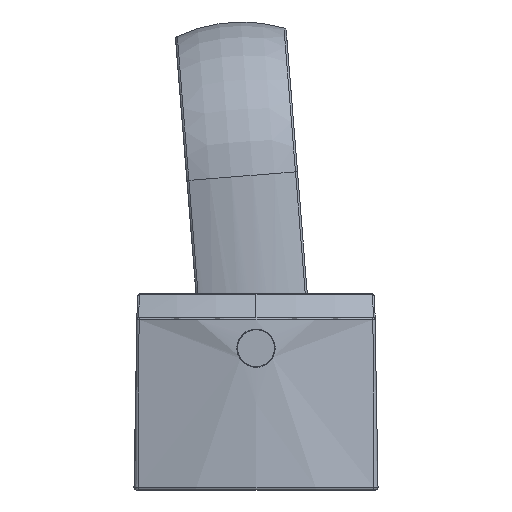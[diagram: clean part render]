
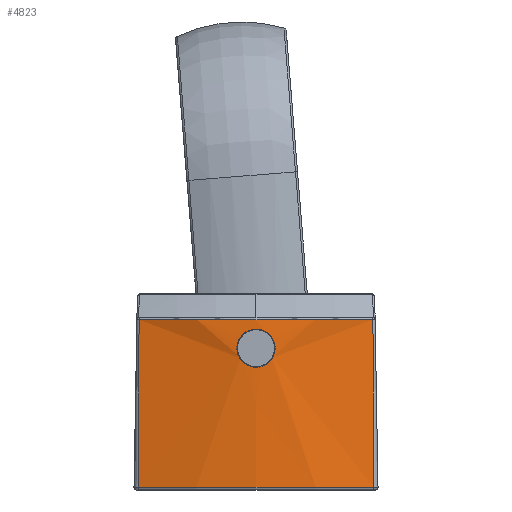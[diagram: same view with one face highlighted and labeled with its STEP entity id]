
A CAD part, left-side view. The second image highlights one B-rep face of the part: STEP entity #4823.
In plain terms, the highlighted conical face has half-angle 1 degrees and reference radius 30.094 mm.
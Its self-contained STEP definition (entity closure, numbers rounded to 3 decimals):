
#438 = EDGE_LOOP ( 'NONE', ( #17957, #23236 ) ) ;
#495 = EDGE_LOOP ( 'NONE', ( #14823, #12800, #28957, #25138 ) ) ;
#510 = LINE ( 'NONE', #14059, #29009 ) ;
#936 = CONICAL_SURFACE ( 'NONE', #19417, 30.094, 0.017 ) ;
#958 = CARTESIAN_POINT ( 'NONE',  ( -128.716, 11.121, 10.564 ) ) ;
#1104 = CARTESIAN_POINT ( 'NONE',  ( -128.689, 10.837, 12.719 ) ) ;
#1106 = CARTESIAN_POINT ( 'NONE',  ( -128.731, 8.965, 10.278 ) ) ;
#1254 = CARTESIAN_POINT ( 'NONE',  ( -128.687, 8.375, 11.401 ) ) ;
#1542 = CARTESIAN_POINT ( 'NONE',  ( -128.748, 10.3, 10.015 ) ) ;
#1549 = CARTESIAN_POINT ( 'NONE',  ( -128.695, 8.424, 11.104 ) ) ;
#2792 = DIRECTION ( 'NONE',  ( -1., 0., 0. ) ) ;
#3240 = CARTESIAN_POINT ( 'NONE',  ( -128.741, 10.575, 10.129 ) ) ;
#3389 = CARTESIAN_POINT ( 'NONE',  ( -128.692, 9.13, 12.832 ) ) ;
#3534 = CARTESIAN_POINT ( 'NONE',  ( -128.683, 11.113, 12.43 ) ) ;
#3541 = EDGE_CURVE ( 'NONE', #9379, #15775, #28967, .T. ) ;
#3685 = CARTESIAN_POINT ( 'NONE',  ( -128.692, 10.667, 12.833 ) ) ;
#3979 = CARTESIAN_POINT ( 'NONE',  ( -128.681, 8.423, 11.895 ) ) ;
#4823 = ADVANCED_FACE ( 'NONE', ( #10457, #8172 ), #936, .T. ) ;
#5079 = DIRECTION ( 'NONE',  ( -0.017, 0.006, -1. ) ) ;
#5814 = CARTESIAN_POINT ( 'NONE',  ( -128.696, 9.504, 12.986 ) ) ;
#5960 = CARTESIAN_POINT ( 'NONE',  ( -128.696, 10.3, 12.985 ) ) ;
#6114 = CARTESIAN_POINT ( 'NONE',  ( -128.738, 9.13, 10.168 ) ) ;
#7488 = EDGE_CURVE ( 'NONE', #15775, #20461, #510, .T. ) ;
#8102 = CARTESIAN_POINT ( 'NONE',  ( -128.698, 9.9, 13.025 ) ) ;
#8172 = FACE_OUTER_BOUND ( 'NONE', #495, .T. ) ;
#8343 = VECTOR ( 'NONE', #11610, 1000. ) ;
#8467 = CARTESIAN_POINT ( 'NONE',  ( -98.831, 9.9, 0. ) ) ;
#8620 = VERTEX_POINT ( 'NONE', #12608 ) ;
#8695 = CARTESIAN_POINT ( 'NONE',  ( -128.689, 8.385, 11.301 ) ) ;
#9117 = EDGE_CURVE ( 'NONE', #8620, #22953, #18798, .T. ) ;
#9170 = DIRECTION ( 'NONE',  ( 0., 0., -1. ) ) ;
#9379 = VERTEX_POINT ( 'NONE', #24377 ) ;
#10233 = CARTESIAN_POINT ( 'NONE',  ( -128.694, 11.386, 11.102 ) ) ;
#10457 = FACE_BOUND ( 'NONE', #438, .T. ) ;
#10832 = CARTESIAN_POINT ( 'NONE',  ( -128.751, 9.9, 9.975 ) ) ;
#11047 = DIRECTION ( 'NONE',  ( 1., 0., 0. ) ) ;
#11115 = CARTESIAN_POINT ( 'NONE',  ( -127.363, 19.458, 0.203 ) ) ;
#11610 = DIRECTION ( 'NONE',  ( -0.017, -0.006, -1. ) ) ;
#11907 = AXIS2_PLACEMENT_3D ( 'NONE', #23206, #9170, #2792 ) ;
#12530 = CARTESIAN_POINT ( 'NONE',  ( -128.727, 10.906, 10.35 ) ) ;
#12608 = CARTESIAN_POINT ( 'NONE',  ( -128.751, 9.9, 9.975 ) ) ;
#12674 = CARTESIAN_POINT ( 'NONE',  ( -128.68, 11.386, 11.897 ) ) ;
#12677 = CARTESIAN_POINT ( 'NONE',  ( -128.698, 8.452, 11.011 ) ) ;
#12800 = ORIENTED_EDGE ( 'NONE', *, *, #22959, .T. ) ;
#13124 = CARTESIAN_POINT ( 'NONE',  ( -128.708, 8.568, 10.73 ) ) ;
#13387 = DIRECTION ( 'NONE',  ( 0., 0., 1. ) ) ;
#14059 = CARTESIAN_POINT ( 'NONE',  ( -127.367, 19.459, 0. ) ) ;
#14355 = LINE ( 'NONE', #23667, #8343 ) ;
#14546 = CARTESIAN_POINT ( 'NONE',  ( -127.138, 19.382, 13.817 ) ) ;
#14811 = CARTESIAN_POINT ( 'NONE',  ( -128.731, 10.83, 10.288 ) ) ;
#14823 = ORIENTED_EDGE ( 'NONE', *, *, #7488, .T. ) ;
#15008 = VERTEX_POINT ( 'NONE', #24962 ) ;
#15108 = CARTESIAN_POINT ( 'NONE',  ( -128.689, 8.965, 12.721 ) ) ;
#15174 = DIRECTION ( 'NONE',  ( 0., 0., -1. ) ) ;
#15550 = CARTESIAN_POINT ( 'NONE',  ( -128.681, 8.452, 11.99 ) ) ;
#15694 = CARTESIAN_POINT ( 'NONE',  ( -128.681, 8.568, 12.27 ) ) ;
#15775 = VERTEX_POINT ( 'NONE', #14546 ) ;
#17393 = CARTESIAN_POINT ( 'NONE',  ( -128.698, 9.9, 13.025 ) ) ;
#17538 = CARTESIAN_POINT ( 'NONE',  ( -128.682, 8.385, 11.7 ) ) ;
#17836 = CARTESIAN_POINT ( 'NONE',  ( -128.751, 9.9, 9.975 ) ) ;
#17957 = ORIENTED_EDGE ( 'NONE', *, *, #9117, .T. ) ;
#17986 = CARTESIAN_POINT ( 'NONE',  ( -128.751, 9.698, 9.975 ) ) ;
#18709 = CARTESIAN_POINT ( 'NONE',  ( -128.698, 9.9, 13.025 ) ) ;
#18798 = B_SPLINE_CURVE_WITH_KNOTS ( 'NONE', 3,
 ( #17836, #22430, #1542, #3240, #27147, #14811, #12530, #958, #27000, #10233, #19536, #28834, #12674, #24263, #21980, #3534, #29129, #1104, #3685, #5960, #24566, #8102 ),
 .UNSPECIFIED., .F., .F.,
 ( 4, 2, 2, 2, 2, 2, 2, 2, 2, 2, 4 ),
 ( 0., 0.125, 0.188, 0.25, 0.375, 0.5, 0.625, 0.688, 0.75, 0.875, 1. ),
 .UNSPECIFIED. ) ;
#19417 = AXIS2_PLACEMENT_3D ( 'NONE', #8467, #15174, #11047 ) ;
#19536 = CARTESIAN_POINT ( 'NONE',  ( -128.689, 11.425, 11.297 ) ) ;
#20138 = CARTESIAN_POINT ( 'NONE',  ( -128.748, 9.503, 10.014 ) ) ;
#20461 = VERTEX_POINT ( 'NONE', #11115 ) ;
#21039 = EDGE_CURVE ( 'NONE', #22953, #8620, #25321, .T. ) ;
#21980 = CARTESIAN_POINT ( 'NONE',  ( -128.682, 11.223, 12.265 ) ) ;
#22430 = CARTESIAN_POINT ( 'NONE',  ( -128.751, 10.099, 9.975 ) ) ;
#22709 = CIRCLE ( 'NONE', #25141, 30.091 ) ;
#22953 = VERTEX_POINT ( 'NONE', #18709 ) ;
#22959 = EDGE_CURVE ( 'NONE', #20461, #15008, #22709, .T. ) ;
#22992 = DIRECTION ( 'NONE',  ( 1., 0., 0. ) ) ;
#23206 = CARTESIAN_POINT ( 'NONE',  ( -98.831, 9.9, 13.817 ) ) ;
#23236 = ORIENTED_EDGE ( 'NONE', *, *, #21039, .T. ) ;
#23667 = CARTESIAN_POINT ( 'NONE',  ( -127.367, 0.341, 0. ) ) ;
#24263 = CARTESIAN_POINT ( 'NONE',  ( -128.681, 11.27, 12.177 ) ) ;
#24377 = CARTESIAN_POINT ( 'NONE',  ( -127.138, 0.418, 13.817 ) ) ;
#24566 = CARTESIAN_POINT ( 'NONE',  ( -128.698, 10.099, 13.025 ) ) ;
#24962 = CARTESIAN_POINT ( 'NONE',  ( -127.363, 0.342, 0.203 ) ) ;
#25138 = ORIENTED_EDGE ( 'NONE', *, *, #3541, .T. ) ;
#25141 = AXIS2_PLACEMENT_3D ( 'NONE', #29846, #13387, #22992 ) ;
#25321 = B_SPLINE_CURVE_WITH_KNOTS ( 'NONE', 3,
 ( #17393, #26711, #5814, #3389, #15108, #27004, #15694, #15550, #3979, #17538, #29575, #1254, #8695, #1549, #12677, #13124, #29278, #1106, #6114, #20138, #17986, #10832 ),
 .UNSPECIFIED., .F., .F.,
 ( 4, 2, 2, 2, 2, 2, 2, 2, 2, 2, 4 ),
 ( 0., 0.125, 0.25, 0.375, 0.437, 0.5, 0.562, 0.625, 0.75, 0.875, 1. ),
 .UNSPECIFIED. ) ;
#25849 = EDGE_CURVE ( 'NONE', #9379, #15008, #14355, .T. ) ;
#26711 = CARTESIAN_POINT ( 'NONE',  ( -128.698, 9.698, 13.025 ) ) ;
#27000 = CARTESIAN_POINT ( 'NONE',  ( -128.708, 11.231, 10.729 ) ) ;
#27004 = CARTESIAN_POINT ( 'NONE',  ( -128.683, 8.679, 12.435 ) ) ;
#27147 = CARTESIAN_POINT ( 'NONE',  ( -128.738, 10.663, 10.176 ) ) ;
#28834 = CARTESIAN_POINT ( 'NONE',  ( -128.682, 11.425, 11.702 ) ) ;
#28957 = ORIENTED_EDGE ( 'NONE', *, *, #25849, .F. ) ;
#28967 = CIRCLE ( 'NONE', #11907, 29.853 ) ;
#29009 = VECTOR ( 'NONE', #5079, 1000. ) ;
#29129 = CARTESIAN_POINT ( 'NONE',  ( -128.685, 11.048, 12.508 ) ) ;
#29278 = CARTESIAN_POINT ( 'NONE',  ( -128.716, 8.679, 10.564 ) ) ;
#29575 = CARTESIAN_POINT ( 'NONE',  ( -128.684, 8.375, 11.599 ) ) ;
#29846 = CARTESIAN_POINT ( 'NONE',  ( -98.831, 9.9, 0.203 ) ) ;
